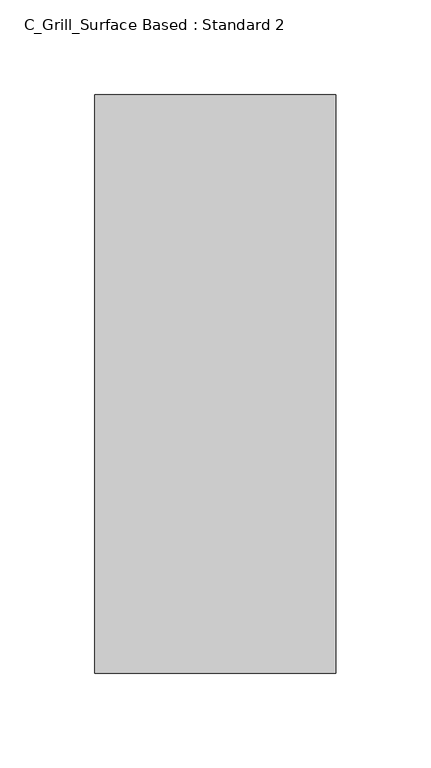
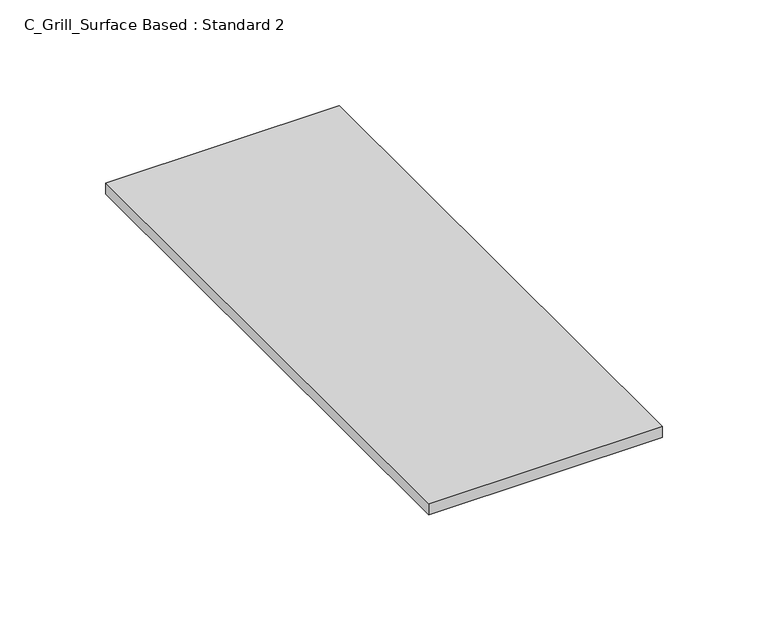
"""IFC4 building model written with IfcOpenShell, lengths in millimetres: air terminal geometry, C_Grill_Surface Based : Standard 2."""

from ifc_helpers import new_model, si_unit, origin, origin_with_axes, place, context, project, spatial, polyline, outline, extrude, source, transform, mapped, element, save


def c_grill_surface_based_standard_2_7b59e936(model_context):
    return source(origin(), model_context, "Body", "SweptSolid", [
        extrude(outline(polyline([(63.5, 152.4), (63.5, -152.4), (-63.5, -152.4), (-63.5, 152.4), (63.5, 152.4)])), origin_with_axes(), (0.0, 0.0, 1.0), 6.35),
    ])


if __name__ == "__main__":
    model = new_model("IFC4")
    model_context = context("Model", 3, world=origin())
    ifc_project = project(units=[si_unit("LENGTHUNIT", "METRE", prefix="MILLI")], contexts=[model_context])
    site = spatial("IfcSite", under=ifc_project)
    building = spatial("IfcBuilding", under=site)
    placement = place(None, origin())
    c_grill_surface_based_standard_2_shape = c_grill_surface_based_standard_2_7b59e936(model_context)
    element("IfcAirTerminal", 1, ObjectType="C_Grill_Surface Based : Standard 2", at=placement, inside=building, context=model_context, shape_type="MappedRepresentation", body=[
        mapped(c_grill_surface_based_standard_2_shape, transform((0.0, 0.0, 0.0), x_axis=(1.0, 0.0, 0.0), y_axis=(0.0, 1.0, 0.0), z_axis=(0.0, 0.0, 1.0))),
    ])
    save(model, "model.ifc")
